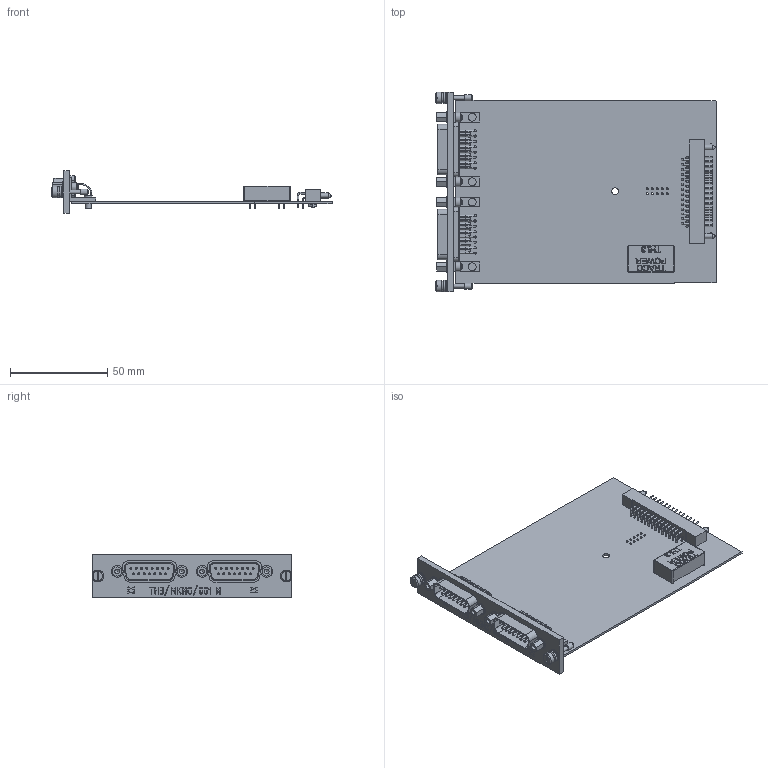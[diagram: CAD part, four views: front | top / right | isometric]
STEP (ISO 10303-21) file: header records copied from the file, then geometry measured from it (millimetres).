
FILE_DESCRIPTION(('STEP AP203'), '1');
FILE_NAME('侍鸵.468153.002 填潴朦彝3_淌任_001', '', ('UNSPECIFIED'), ('UNSPECIFIED'), 'C3D Converter', 'C3D Toolkit', '');
FILE_SCHEMA(('CONFIG_CONTROL_DESIGN'));
Length unit declared in the file: millimetre
Products named in the file (1): КМНТ.468153.002
Bounding box: 144.3 x 103 x 21.7 mm (x, y, z)
Volume: 19324.3 mm3; surface area: 41513.6 mm2
Topology: 1 solids, 2 shells, 2055 faces, 5430 edges, 3479 vertices
Faces by surface type: cylinder 917, plane 870, torus 73, bspline 61, sphere 60, revolution 58, cone 16
Full cylindrical faces by diameter (mm): 0.5 x7, 0.6 x163, 0.95 x29, 1 x135, 1.6 x2, 2 x2, 2.459 x6, 2.49 x2, 2.5 x2, 2.7 x2, 3 x10, 3.1 x4, 3.2 x4, 3.4 x2, 3.5 x5, 4 x4, 5 x4, 6 x10
Entity records: 87519 total; most frequent: CARTESIAN_POINT 21519, DIRECTION 10449, ORIENTED_EDGE 9512, EDGE_CURVE 4756, AXIS2_PLACEMENT_3D 4040, VERTEX_POINT 3474, EDGE_LOOP 2996, FACE_BOUND 2374
